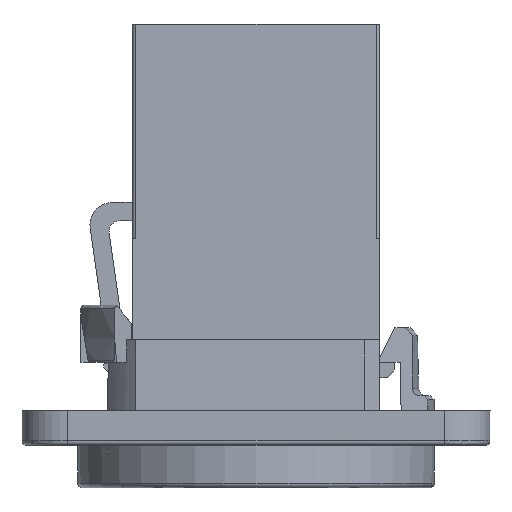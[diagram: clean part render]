
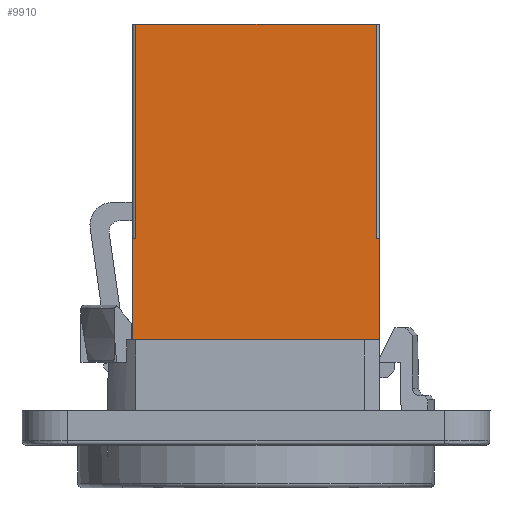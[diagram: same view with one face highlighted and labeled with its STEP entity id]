
A CAD part, left-side view. The second image highlights one B-rep face of the part: STEP entity #9910.
In plain terms, the highlighted planar face has unit normal (-1, 0, 0).
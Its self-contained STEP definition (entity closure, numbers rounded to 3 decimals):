
#30=(
BOUNDED_CURVE()
B_SPLINE_CURVE(2,(#15916,#15917,#15918),.UNSPECIFIED.,.F.,.F.)
B_SPLINE_CURVE_WITH_KNOTS((3,3),(0.47,0.941),
 .UNSPECIFIED.)
CURVE()
GEOMETRIC_REPRESENTATION_ITEM()
RATIONAL_B_SPLINE_CURVE((0.897,0.897,1.))
REPRESENTATION_ITEM('')
);
#1191=FACE_OUTER_BOUND('',#1745,.T.);
#1745=EDGE_LOOP('',(#8994,#8995,#8996,#8997,#8998,#8999,#9000,#9001,#9002,
#9003));
#2504=LINE('',#15933,#3558);
#2619=LINE('',#17048,#3673);
#2722=LINE('',#17250,#3776);
#2731=LINE('',#17269,#3785);
#2732=LINE('',#17275,#3786);
#2772=LINE('',#17364,#3826);
#2801=LINE('',#17437,#3855);
#2802=LINE('',#17438,#3856);
#2803=LINE('',#17439,#3857);
#3558=VECTOR('',#11838,16.2);
#3673=VECTOR('',#12193,0.038);
#3776=VECTOR('',#12374,6.7);
#3785=VECTOR('',#12391,0.25);
#3786=VECTOR('',#12396,0.25);
#3826=VECTOR('',#12494,14.2);
#3855=VECTOR('',#12569,15.9);
#3856=VECTOR('',#12570,11.4);
#3857=VECTOR('',#12571,14.2);
#4545=VERTEX_POINT('',#15914);
#4546=VERTEX_POINT('',#15915);
#4552=VERTEX_POINT('',#15932);
#4689=VERTEX_POINT('',#17047);
#4749=VERTEX_POINT('',#17249);
#4755=VERTEX_POINT('',#17267);
#4757=VERTEX_POINT('',#17272);
#4758=VERTEX_POINT('',#17274);
#4778=VERTEX_POINT('',#17362);
#4799=VERTEX_POINT('',#17436);
#5789=EDGE_CURVE('',#4545,#4546,#30,.T.);
#5796=EDGE_CURVE('',#4545,#4552,#2504,.T.);
#6020=EDGE_CURVE('',#4546,#4689,#2619,.T.);
#6123=EDGE_CURVE('',#4689,#4749,#2722,.T.);
#6133=EDGE_CURVE('',#4755,#4749,#2731,.T.);
#6135=EDGE_CURVE('',#4758,#4757,#2732,.T.);
#6180=EDGE_CURVE('',#4755,#4778,#2772,.T.);
#6216=EDGE_CURVE('',#4799,#4778,#2801,.T.);
#6217=EDGE_CURVE('',#4552,#4758,#2802,.T.);
#6218=EDGE_CURVE('',#4799,#4757,#2803,.T.);
#8994=ORIENTED_EDGE('',*,*,#6216,.T.);
#8995=ORIENTED_EDGE('',*,*,#6180,.F.);
#8996=ORIENTED_EDGE('',*,*,#6133,.T.);
#8997=ORIENTED_EDGE('',*,*,#6123,.F.);
#8998=ORIENTED_EDGE('',*,*,#6020,.F.);
#8999=ORIENTED_EDGE('',*,*,#5789,.F.);
#9000=ORIENTED_EDGE('',*,*,#5796,.T.);
#9001=ORIENTED_EDGE('',*,*,#6217,.T.);
#9002=ORIENTED_EDGE('',*,*,#6135,.T.);
#9003=ORIENTED_EDGE('',*,*,#6218,.F.);
#9406=PLANE('',#10450);
#9910=ADVANCED_FACE('',(#1191),#9406,.T.);
#10450=AXIS2_PLACEMENT_3D('',#17435,#12567,#12568);
#11838=DIRECTION('',(0.,-1.,0.));
#12193=DIRECTION('',(0.,1.,0.));
#12374=DIRECTION('',(0.,0.,1.));
#12391=DIRECTION('',(0.,1.,0.));
#12396=DIRECTION('',(0.,1.,0.));
#12494=DIRECTION('',(0.,0.,1.));
#12567=DIRECTION('center_axis',(-1.,0.,0.));
#12568=DIRECTION('ref_axis',(0.,-1.,0.));
#12569=DIRECTION('',(0.,1.,0.));
#12570=DIRECTION('',(0.,0.,1.));
#12571=DIRECTION('',(0.,0.,-1.));
#15914=CARTESIAN_POINT('',(-17.307,11.228,-19.026));
#15915=CARTESIAN_POINT('',(-17.307,11.39,-14.326));
#15916=CARTESIAN_POINT('Ctrl Pts',(-17.307,11.228,-19.026));
#15917=CARTESIAN_POINT('Ctrl Pts',(-17.307,11.296,-19.026));
#15918=CARTESIAN_POINT('Ctrl Pts',(-17.307,11.39,-14.326));
#15932=CARTESIAN_POINT('',(-17.307,-4.972,-19.026));
#15933=CARTESIAN_POINT('',(-17.307,-0.872,-19.026));
#17047=CARTESIAN_POINT('',(-17.307,11.428,-14.326));
#17048=CARTESIAN_POINT('',(-17.307,7.941,-14.326));
#17249=CARTESIAN_POINT('',(-17.307,11.428,-7.626));
#17250=CARTESIAN_POINT('',(-17.307,11.428,-19.941));
#17267=CARTESIAN_POINT('',(-17.307,11.178,-7.626));
#17269=CARTESIAN_POINT('',(-17.307,13.328,-7.626));
#17272=CARTESIAN_POINT('',(-17.307,-4.722,-7.626));
#17274=CARTESIAN_POINT('',(-17.307,-4.972,-7.626));
#17275=CARTESIAN_POINT('',(-17.307,13.328,-7.626));
#17362=CARTESIAN_POINT('',(-17.307,11.178,6.574));
#17364=CARTESIAN_POINT('',(-17.307,11.178,8.874));
#17435=CARTESIAN_POINT('Origin',(-17.307,11.428,-24.126));
#17436=CARTESIAN_POINT('',(-17.307,-4.722,6.574));
#17437=CARTESIAN_POINT('',(-17.307,2.377,6.574));
#17438=CARTESIAN_POINT('',(-17.307,-4.972,-9.521));
#17439=CARTESIAN_POINT('',(-17.307,-4.722,8.874));
